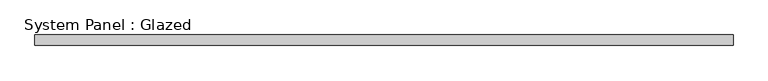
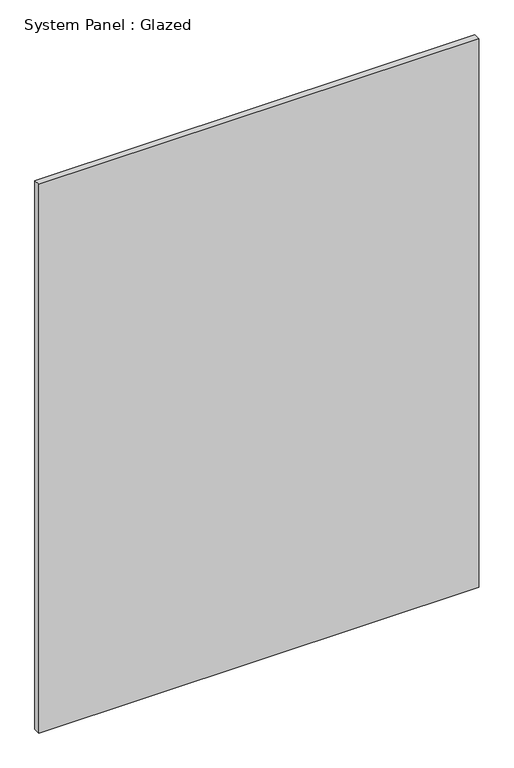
"""IFC4 building model written with IfcOpenShell, lengths in millimetres: plate geometry, System Panel : Glazed."""

from ifc_helpers import new_model, si_unit, origin, origin_with_axes, place, context, project, spatial, polyline, outline, extrude, source, transform, mapped, element, save


def system_panel_glazed_0541acdc(model_context):
    return source(origin(), model_context, "Body", "SweptSolid", [
        extrude(outline(polyline([(825.0, 24.5), (-825.0, 24.5), (-825.0, 49.5), (825.0, 49.5), (825.0, 24.5)])), origin_with_axes(), (0.0, 0.0, 1.0), 2175.0),
    ])


if __name__ == "__main__":
    model = new_model("IFC4")
    model_context = context("Model", 3, world=origin())
    ifc_project = project(units=[si_unit("LENGTHUNIT", "METRE", prefix="MILLI")], contexts=[model_context])
    site = spatial("IfcSite", under=ifc_project)
    building = spatial("IfcBuilding", under=site)
    placement = place(None, origin())
    system_panel_glazed_shape = system_panel_glazed_0541acdc(model_context)
    element("IfcPlate", 1, ObjectType="System Panel : Glazed", at=placement, inside=building, context=model_context, shape_type="MappedRepresentation", body=[
        mapped(system_panel_glazed_shape, transform((0.0, 0.0, 0.0), x_axis=(1.0, 0.0, 0.0), y_axis=(0.0, 1.0, 0.0), z_axis=(0.0, 0.0, 1.0))),
    ])
    save(model, "model.ifc")
